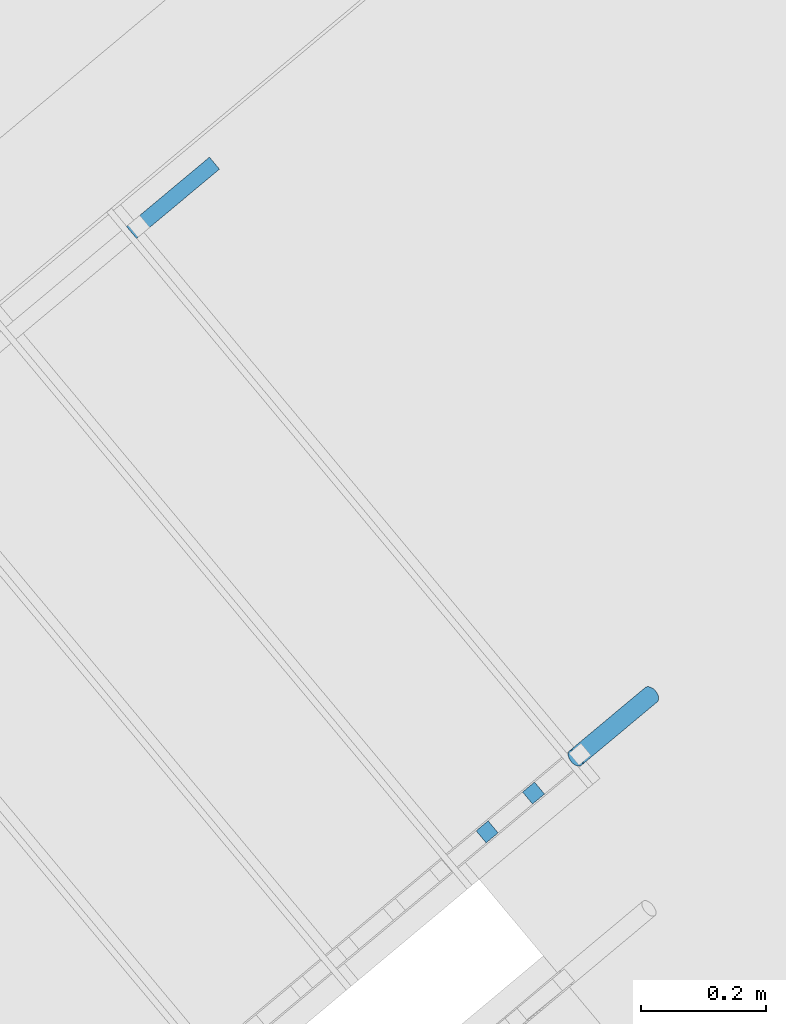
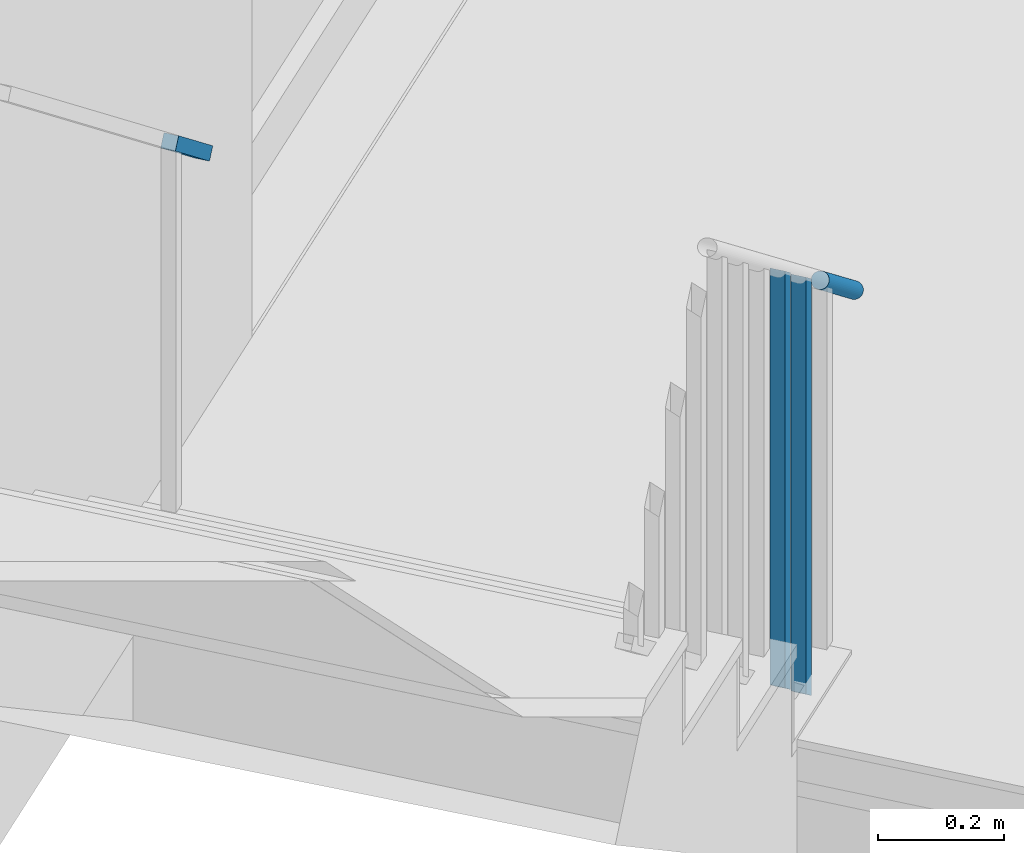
# One storey, part 49 of 61: 4 building element parts, 2 elements without a shape of their own.
"""IFC4 building model written with IfcOpenShell, lengths in metres."""

from ifc_helpers import new_model, entity, si_unit, converted_unit, derived_unit, direction, frame, origin_with_axes, place, context, subcontext, project, spatial, polygons, material, type_object, element, aggregate, save


model = new_model("IFC4")

# Units and contexts
model_context = context("Model", 3, precision=1e-05, world=origin_with_axes(), true_north=direction((0.0, 1.0)))
body_context = subcontext(model_context, "Body", "Model", "MODEL_VIEW")
ifc_project = project(units=[si_unit("LENGTHUNIT", "METRE"), si_unit("AREAUNIT", "SQUARE_METRE"), si_unit("VOLUMEUNIT", "CUBIC_METRE"), converted_unit("PLANEANGLEUNIT", "DEGREE", entity("IfcPlaneAngleMeasure", 0.0174532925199), si_unit("PLANEANGLEUNIT", "RADIAN"), dimensions=[0, 0, 0, 0, 0, 0, 0]), converted_unit("TIMEUNIT", "Year", entity("IfcTimeMeasure", 31556926.0), si_unit("TIMEUNIT", "SECOND"), dimensions=[0, 0, 1, 0, 0, 0, 0]), si_unit("MASSUNIT", "GRAM", prefix="KILO"), si_unit("THERMODYNAMICTEMPERATUREUNIT", "DEGREE_CELSIUS"), si_unit("LUMINOUSINTENSITYUNIT", "LUMEN"), si_unit("ENERGYUNIT", "JOULE", prefix="MEGA"), derived_unit("THERMALCONDUCTANCEUNIT", [(si_unit("POWERUNIT", "WATT"), 1), (si_unit("LENGTHUNIT", "METRE"), -1), (si_unit("THERMODYNAMICTEMPERATUREUNIT", "KELVIN"), -1)]), derived_unit("SPECIFICHEATCAPACITYUNIT", [(si_unit("ENERGYUNIT", "JOULE"), 1), (si_unit("MASSUNIT", "GRAM", prefix="KILO"), -1), (si_unit("THERMODYNAMICTEMPERATUREUNIT", "KELVIN"), -1)]), derived_unit("MASSDENSITYUNIT", [(si_unit("MASSUNIT", "GRAM", prefix="KILO"), 1), (si_unit("VOLUMEUNIT", "CUBIC_METRE"), -1)])], contexts=[model_context])

# Site, building, storey, space
site_placement = place(None, frame((-0.00153261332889, -0.00661245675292, 0.0), z_axis=(0.0, 0.0, 1.0), x_axis=(1.0, 0.0, 0.0)))
site = spatial("IfcSite", under=ifc_project, at=site_placement, Name="Gelände", CompositionType="ELEMENT")
building_placement = place(site_placement, origin_with_axes())
building = spatial("IfcBuilding", under=site, at=building_placement, Name="Gebäude", CompositionType="ELEMENT")
storey_placement = place(building_placement, frame((0.0, 0.0, 5.7), z_axis=(0.0, 0.0, 1.0), x_axis=(1.0, 0.0, 0.0)))
storey = spatial("IfcBuildingStorey", under=building, at=storey_placement, Name="DG1", CompositionType="ELEMENT", Elevation=5.7)
space_placement = place(storey_placement, frame((0.280300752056, 22.6307267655, 0.22), z_axis=(0.0, 0.0, 1.0), x_axis=(-0.641244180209, 0.767336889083, 0.0)))
space = spatial("IfcSpace", under=storey, at=space_placement, CompositionType="ELEMENT", PredefinedType="NOTDEFINED")

# Railing, building element parts
railing_type = type_object("IfcRailingType", Name="Geländerart", PredefinedType="NOTDEFINED")
railing_1_placement = place(space_placement, frame((1.35982515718, -0.251690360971, -0.17), z_axis=(0.0, 0.0, 1.0), x_axis=(-0.641244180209, -0.767336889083, 0.0)))
railing_1 = element("IfcRailing", 1, at=railing_1_placement, inside=space, type_object=railing_type, Name="Geländer - 001", PredefinedType="NOTDEFINED")
ifc_material = material(Name="BEKLEIDUNG")
building_element_part_1_placement = place(railing_1_placement, origin_with_axes())
building_element_part_1 = element("IfcBuildingElementPart", 2, at=building_element_part_1_placement, material=ifc_material, Name="BEKLEIDUNG", PredefinedType="NOTDEFINED", context=body_context, shape_type="Tessellation", body=[
    polygons([(-0.0487538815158, 0.0439673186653, 0.88817063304), (-0.0473787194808, 0.0448193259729, 0.890224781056), (0.073659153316, 0.145947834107, 0.767249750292), (0.0722839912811, 0.1450958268, 0.765195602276), (-0.0498368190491, 0.0427655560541, 0.886116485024), (-0.0505946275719, 0.0412505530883, 0.884124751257), (-0.0510042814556, 0.0394683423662, 0.88225594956), (-0.0510533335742, 0.0374730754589, 0.880566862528), (-0.050740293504, 0.0353253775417, 0.879108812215), (-0.0500746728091, 0.0330905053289, 0.877926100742), (-0.0490766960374, 0.030836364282, 0.877054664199), (-0.0477766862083, 0.0286314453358, 0.876520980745), (-0.0462141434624, 0.026542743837, 0.87634126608), (-0.0444365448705, 0.0246337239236, 0.876520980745), (-0.0424979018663, 0.0229623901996, 0.877054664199), (-0.0404571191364, 0.0215795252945, 0.877926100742), (-0.0383762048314, 0.0205271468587, 0.879108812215), (-0.0363183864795, 0.0198372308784, 0.880566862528), (-0.03434618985, 0.0195307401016, 0.88225594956), (-0.0325195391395, 0.0196169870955, 0.884124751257), (-0.0308939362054, 0.0200933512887, 0.886116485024), (-0.0295187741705, 0.0209453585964, 0.88817063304), (-0.0284358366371, 0.0221471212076, 0.890224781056), (-0.0276780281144, 0.0236621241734, 0.892216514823), (-0.0272683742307, 0.0254443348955, 0.89408531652), (-0.0272193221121, 0.0274396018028, 0.895774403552), (-0.0275323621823, 0.02958729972, 0.897232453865), (-0.0281979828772, 0.0318221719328, 0.898415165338), (-0.0291959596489, 0.0340763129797, 0.899286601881), (-0.030495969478, 0.0362812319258, 0.899820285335), (-0.0320585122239, 0.0383699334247, 0.9), (-0.0338361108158, 0.0402789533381, 0.899820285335), (-0.03577475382, 0.0419502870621, 0.899286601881), (-0.0378155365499, 0.0433331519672, 0.898415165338), (-0.0398964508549, 0.044385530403, 0.897232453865), (-0.0419542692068, 0.0450754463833, 0.895774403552), (-0.0439264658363, 0.04538193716, 0.89408531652), (-0.0457531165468, 0.0452956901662, 0.892216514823), (0.0752847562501, 0.146424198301, 0.76924148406), (0.0771114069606, 0.146510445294, 0.771110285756), (0.0790836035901, 0.146203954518, 0.772799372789), (0.081141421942, 0.145514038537, 0.774257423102), (0.083222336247, 0.144461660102, 0.775440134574), (0.0852631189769, 0.143078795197, 0.776311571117), (0.0872017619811, 0.141407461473, 0.776845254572), (0.088979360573, 0.139498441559, 0.777024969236), (0.0905419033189, 0.13740974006, 0.776845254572), (0.091841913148, 0.135204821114, 0.776311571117), (0.0928398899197, 0.132950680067, 0.775440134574), (0.0935055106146, 0.130715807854, 0.774257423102), (0.0938185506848, 0.128568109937, 0.772799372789), (0.0937694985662, 0.12657284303, 0.771110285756), (0.0933598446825, 0.124790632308, 0.76924148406), (0.0926020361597, 0.123275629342, 0.767249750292), (0.0915190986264, 0.122073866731, 0.765195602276), (0.0901439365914, 0.121221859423, 0.763141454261), (0.0885183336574, 0.12074549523, 0.761149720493), (0.0866916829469, 0.120659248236, 0.759280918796), (0.0847194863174, 0.120965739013, 0.757591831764), (0.0826616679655, 0.121655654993, 0.756133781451), (0.0805807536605, 0.122708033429, 0.754951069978), (0.0785399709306, 0.124090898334, 0.754079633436), (0.0766013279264, 0.125762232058, 0.753545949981), (0.0748237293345, 0.127671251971, 0.753366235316), (0.0732611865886, 0.12975995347, 0.753545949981), (0.0719611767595, 0.131964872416, 0.754079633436), (0.0709631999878, 0.134219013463, 0.754951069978), (0.0702975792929, 0.136453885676, 0.756133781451), (0.0699845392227, 0.138601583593, 0.757591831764), (0.0700335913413, 0.140596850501, 0.759280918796), (0.070443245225, 0.142379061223, 0.761149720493), (0.0712010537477, 0.143894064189, 0.763141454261)], [[[1, 2, 3, 4]], [[1, 5, 6, 7, 8, 9, 10, 11, 12, 13, 14, 15, 16, 17, 18, 19, 20, 21, 22, 23, 24, 25, 26, 27, 28, 29, 30, 31, 32, 33, 34, 35, 36, 37, 38, 2]], [[2, 38, 39, 3]], [[4, 3, 39, 40, 41, 42, 43, 44, 45, 46, 47, 48, 49, 50, 51, 52, 53, 54, 55, 56, 57, 58, 59, 60, 61, 62, 63, 64, 65, 66, 67, 68, 69, 70, 71, 72]], [[5, 1, 4, 72]], [[6, 5, 72, 71]], [[7, 6, 71, 70]], [[8, 7, 70, 69]], [[9, 8, 69, 68]], [[10, 9, 68, 67]], [[11, 10, 67, 66]], [[12, 11, 66, 65]], [[13, 12, 65, 64]], [[14, 13, 64, 63]], [[15, 14, 63, 62]], [[16, 15, 62, 61]], [[17, 16, 61, 60]], [[18, 17, 60, 59]], [[19, 18, 59, 58]], [[20, 19, 58, 57]], [[21, 20, 57, 56]], [[22, 21, 56, 55]], [[23, 22, 55, 54]], [[24, 23, 54, 53]], [[25, 24, 53, 52]], [[26, 25, 52, 51]], [[27, 26, 51, 50]], [[28, 27, 50, 49]], [[29, 28, 49, 48]], [[30, 29, 48, 47]], [[31, 30, 47, 46]], [[32, 31, 46, 45]], [[33, 32, 45, 44]], [[34, 33, 44, 43]], [[35, 34, 43, 42]], [[36, 35, 42, 41]], [[37, 36, 41, 40]], [[38, 37, 40, 39]]], closed=True),
])
building_element_part_2_placement = place(railing_1_placement, origin_with_axes())
building_element_part_2 = element("IfcBuildingElementPart", 3, at=building_element_part_2_placement, material=ifc_material, Name="BEKLEIDUNG", PredefinedType="NOTDEFINED", context=body_context, shape_type="Tessellation", body=[
    polygons([(-0.123876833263, -0.0220565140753, 0.155144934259), (-0.107847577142, -0.0412414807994, 0.155144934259), (-0.107847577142, -0.0412414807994, 0.962644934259), (-0.123876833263, -0.0220565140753, 0.962644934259), (-0.104691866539, -0.00602725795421, 0.135652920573), (-0.0886626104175, -0.0252122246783, 0.135652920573), (-0.0886626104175, -0.0252122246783, 0.943152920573), (-0.104691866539, -0.00602725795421, 0.943152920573)], [[[1, 2, 3, 4]], [[1, 5, 6, 2]], [[2, 6, 7, 3]], [[4, 3, 7, 8]], [[5, 1, 4, 8]], [[6, 5, 8, 7]]], closed=True),
])
building_element_part_3_placement = place(railing_1_placement, origin_with_axes())
building_element_part_3 = element("IfcBuildingElementPart", 4, at=building_element_part_3_placement, material=ifc_material, Name="BEKLEIDUNG", PredefinedType="NOTDEFINED", context=body_context, shape_type="Tessellation", body=[
    polygons([(-0.198088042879, -0.0840608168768, 0.230543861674), (-0.182058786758, -0.103245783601, 0.230543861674), (-0.182058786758, -0.103245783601, 1.03804386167), (-0.198088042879, -0.0840608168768, 1.03804386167), (-0.178903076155, -0.0680315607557, 0.211051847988), (-0.162873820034, -0.0872165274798, 0.211051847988), (-0.162873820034, -0.0872165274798, 1.01855184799), (-0.178903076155, -0.0680315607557, 1.01855184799)], [[[1, 2, 3, 4]], [[1, 5, 6, 2]], [[2, 6, 7, 3]], [[4, 3, 7, 8]], [[5, 1, 4, 8]], [[6, 5, 8, 7]]], closed=True),
])
aggregate(railing_1, [building_element_part_1, building_element_part_2, building_element_part_3])

# Railing, building element part
railing_2_placement = place(space_placement, frame((2.55982515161, -0.251805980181, -0.17), z_axis=(0.0, 0.0, 1.0), x_axis=(-0.641244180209, -0.767336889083, 0.0)))
railing_2 = element("IfcRailing", 5, at=railing_2_placement, inside=space, type_object=railing_type, Name="Geländer - 001", PredefinedType="NOTDEFINED")
building_element_part_4_placement = place(railing_2_placement, origin_with_axes())
building_element_part_4 = element("IfcBuildingElementPart", 6, at=building_element_part_4_placement, material=ifc_material, Name="BEKLEIDUNG", PredefinedType="NOTDEFINED", context=body_context, shape_type="Tessellation", body=[
    polygons([(0.0400731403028, -0.0479624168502, 0.9), (0.0282583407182, -0.0578338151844, 0.880303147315), (0.149181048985, 0.0431984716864, 0.757135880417), (0.16099584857, 0.0530698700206, 0.776832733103), (0.0240438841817, -0.0287774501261, 0.9), (0.0122290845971, -0.0386488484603, 0.880303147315), (0.133151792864, 0.0623834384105, 0.757135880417), (0.144966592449, 0.0722548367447, 0.776832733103)], [[[1, 2, 3, 4]], [[1, 5, 6, 2]], [[2, 6, 7, 3]], [[4, 3, 7, 8]], [[5, 1, 4, 8]], [[6, 5, 8, 7]]], closed=True),
])
aggregate(railing_2, [building_element_part_4])

save(model, "model.ifc")
